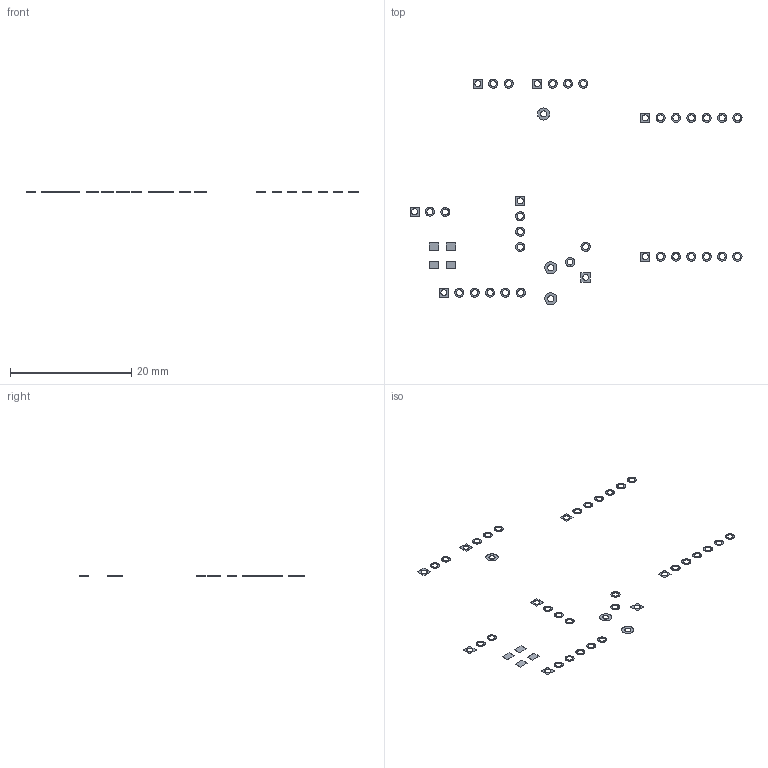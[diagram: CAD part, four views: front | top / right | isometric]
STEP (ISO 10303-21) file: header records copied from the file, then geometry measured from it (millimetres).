
FILE_DESCRIPTION(('None'),'2;1');
FILE_NAME('LPC_PD_POWER(rev_0.1)_221026_CopperBottom.step', '', (' '), ('Mentor Graphics'), '', 'Expedition PCB', ' ');
FILE_SCHEMA(('CONFIG_CONTROL_DESIGN'));
Length unit declared in the file: millimetre
Products named in the file (1): LPC_PD_POWER(rev_0.1)_221026_CopperBottom
Bounding box: 54.86 x 37.3 x 0.03 mm (x, y, z)
Volume: 1.9 mm3; surface area: 122.6 mm2
Topology: 44 solids, 44 shells, 280 faces, 576 edges, 384 vertices
Faces by surface type: cylinder 144, plane 136
Entity records: 7120 total; most frequent: DIRECTION 1426, ORIENTED_EDGE 1152, CARTESIAN_POINT 673, EDGE_CURVE 576, AXIS2_PLACEMENT_3D 569, VERTEX_POINT 384, EDGE_LOOP 360, LINE 288
